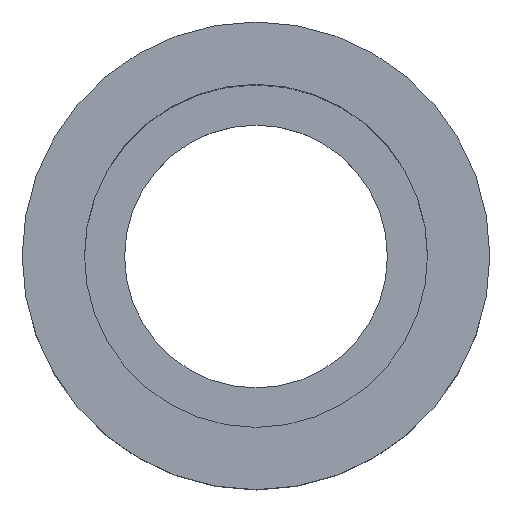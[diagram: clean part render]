
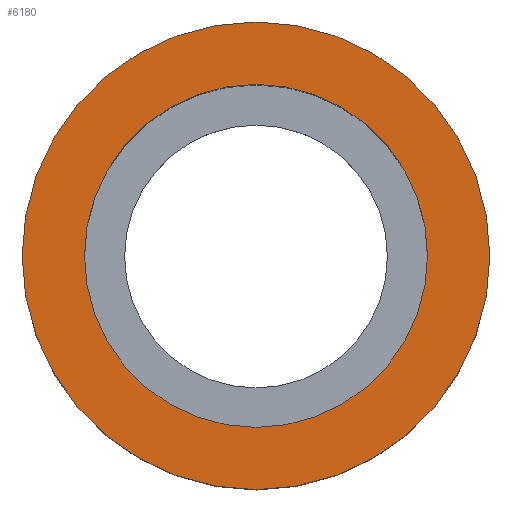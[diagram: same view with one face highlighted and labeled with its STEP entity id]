
A CAD part, top view. The second image highlights one B-rep face of the part: STEP entity #6180.
In plain terms, the highlighted planar face has unit normal (0, 0, 1).
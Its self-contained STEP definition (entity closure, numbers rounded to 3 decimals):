
#1780=CARTESIAN_POINT('',(40.553,56.805,71.831));
#1790=VERTEX_POINT('',#1780);
#1870=CARTESIAN_POINT('',(12.753,56.805,71.831));
#1880=VERTEX_POINT('',#1870);
#1910=CARTESIAN_POINT('',(26.653,56.805,71.831));
#1920=DIRECTION('',(0.,0.,-1.));
#1930=DIRECTION('',(1.,0.,0.));
#1940=AXIS2_PLACEMENT_3D('',#1910,#1920,#1930);
#1950=CIRCLE('',#1940,13.9);
#1960=EDGE_CURVE('',#1880,#1790,#1950,.T.);
#2100=CARTESIAN_POINT('',(26.653,75.755,71.831));
#2110=VERTEX_POINT('',#2100);
#2330=CARTESIAN_POINT('',(26.653,37.855,71.831));
#2340=VERTEX_POINT('',#2330);
#2370=CARTESIAN_POINT('',(26.653,56.805,71.831));
#2380=DIRECTION('',(0.,0.,-1.));
#2390=DIRECTION('',(0.,-1.,0.));
#2400=AXIS2_PLACEMENT_3D('',#2370,#2380,#2390);
#2410=CIRCLE('',#2400,18.95);
#2420=EDGE_CURVE('',#2110,#2340,#2410,.T.);
#6030=CARTESIAN_POINT('',(26.653,74.48,71.831));
#6040=DIRECTION('',(0.,0.,1.));
#6050=DIRECTION('',(0.,1.,0.));
#6060=AXIS2_PLACEMENT_3D('',#6030,#6040,#6050);
#6070=PLANE('',#6060);
#6080=EDGE_CURVE('',#1790,#1880,#1950,.T.);
#6090=ORIENTED_EDGE('',*,*,#6080,.T.);
#6100=ORIENTED_EDGE('',*,*,#1960,.T.);
#6110=EDGE_LOOP('',(#6100,#6090));
#6120=FACE_BOUND('',#6110,.T.);
#6130=EDGE_CURVE('',#2340,#2110,#2410,.T.);
#6140=ORIENTED_EDGE('',*,*,#6130,.F.);
#6150=ORIENTED_EDGE('',*,*,#2420,.F.);
#6160=EDGE_LOOP('',(#6150,#6140));
#6170=FACE_OUTER_BOUND('',#6160,.T.);
#6180=ADVANCED_FACE('',(#6120,#6170),#6070,.T.);
